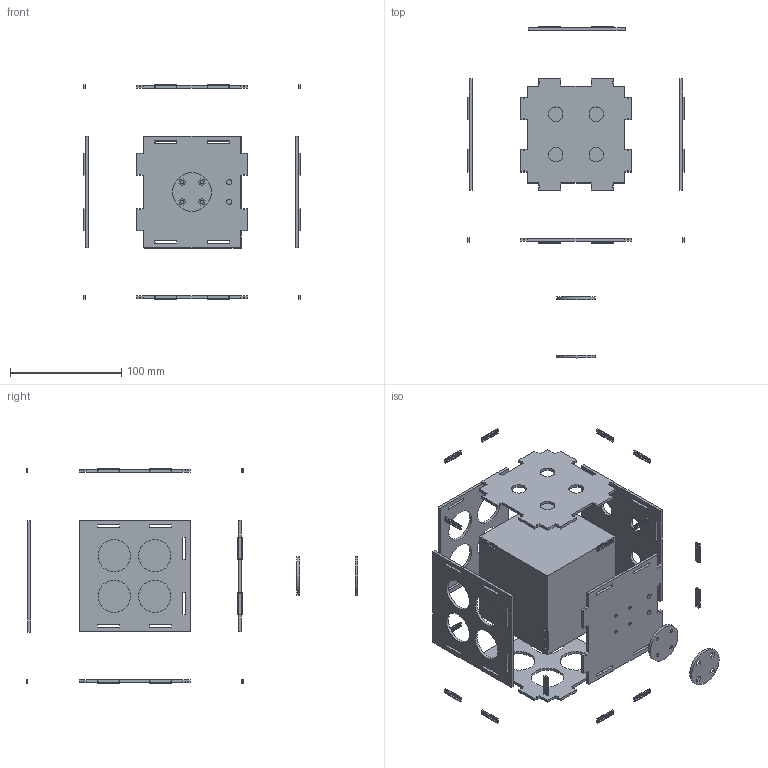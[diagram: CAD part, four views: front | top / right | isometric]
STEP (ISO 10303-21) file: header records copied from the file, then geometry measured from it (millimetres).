
FILE_DESCRIPTION(/* description */ (''),/* implementation_level */ '2;1');
FILE_NAME(/* name */ 'C:\Users\valen\Desktop\Estandar CubeSat - Programa AVES-20220531T050024Z-001\Estandar CubeSat - Programa AVES\3D - MODELS\STEP\Cubesat_Ensamble_explosionado.stp',/* time_stamp */ '2022-05-31T02:29:55-05:00',/* author */ ('valen'),/* organization */ (''),/* preprocessor_version */ 'ST-DEVELOPER v18.1',/* originating_system */ 'Autodesk Inventor 2022',/* authorisation */ '');
FILE_SCHEMA (('AUTOMOTIVE_DESIGN { 1 0 10303 214 3 1 1 }'));
Length unit declared in the file: millimetre
Products named in the file (11): Cubesat_Ensamble; Volumen interno ; Frontal; Posteri0r; Tubos supCara 1 (4 unidades); Tubos supCara 1 (4 unidades)_1; Inferior; Lateral 1; 7. Arandela; 8. Soporte tuercas; Oring
Assembly tree (29 placements, depth 2):
  Cubesat_Ensamble
    Volumen interno 
    Frontal
    Posteri0r
    Tubos supCara 1 (4 unidades)
    Tubos supCara 1 (4 unidades)_1
    Inferior
    Lateral 1
    7. Arandela
    8. Soporte tuercas
    Oring  x20
Bounding box: 195.2 x 298.56 x 193.41 mm (x, y, z)
Volume: 118077.8 mm3; surface area: 171406 mm2
Topology: 28 solids, 30 shells, 624 faces, 1624 edges, 1056 vertices
Faces by surface type: plane 472, cylinder 152
Full cylindrical faces by diameter (mm): 3 x8, 4.5 x2, 13 x8, 29 x12, 35 x2
Entity records: 12328 total; most frequent: CARTESIAN_POINT 2093, ORIENTED_EDGE 2016, DIRECTION 1962, EDGE_CURVE 1016, LINE 868, VECTOR 868, VERTEX_POINT 676, AXIS2_PLACEMENT_3D 547
